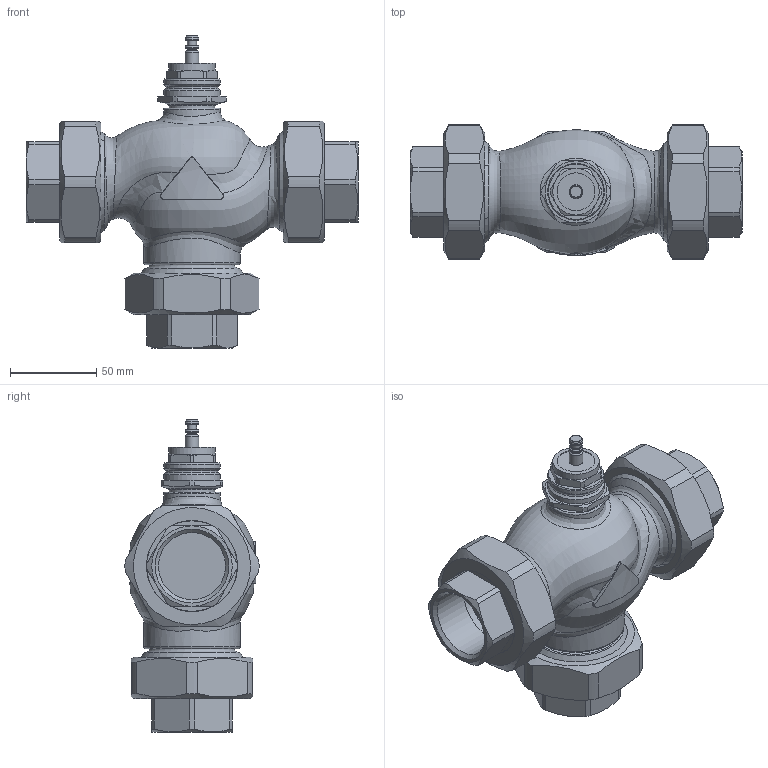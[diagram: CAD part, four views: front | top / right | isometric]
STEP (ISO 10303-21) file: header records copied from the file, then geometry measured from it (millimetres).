
FILE_DESCRIPTION(/* description */ (''),/* implementation_level */ '2;1');
FILE_NAME(/* name */ 'rv111s_dn32_3_T.stp',/* time_stamp */ '2012-02-28T08:13:36+01:00',/* author */ ('KLIMES'),/* organization */ ('LDM'),/* preprocessor_version */ 'ST-DEVELOPER v11',/* originating_system */ 'SIEMENS PLM Software NX 7.0',/* authorisation */ '');
FILE_SCHEMA (('CONFIG_CONTROL_DESIGN'));
Length unit declared in the file: millimetre
Products named in the file (1): klimEAFB3cb9
Bounding box: 193 x 77.97 x 181.45 mm (x, y, z)
Volume: 699309.9 mm3; surface area: 123689.3 mm2
Topology: 10 solids, 10 shells, 257 faces, 602 edges, 387 vertices
Faces by surface type: plane 111, cylinder 73, cone 40, bspline 20, torus 13
Full cylindrical faces by diameter (mm): 5.3 x1, 5.5 x1, 8 x3, 22 x1, 26.5 x1, 27 x1, 33 x3, 38.952 x3, 44 x6, 52.6 x3, 53 x3, 56 x4, 56.3 x3, 56.656 x3, 59.614 x3
Entity records: 12553 total; most frequent: CARTESIAN_POINT 7254, DIRECTION 1058, ORIENTED_EDGE 966, EDGE_CURVE 483, AXIS2_PLACEMENT_3D 466, EDGE_LOOP 380, VERTEX_POINT 351, ADVANCED_FACE 257
